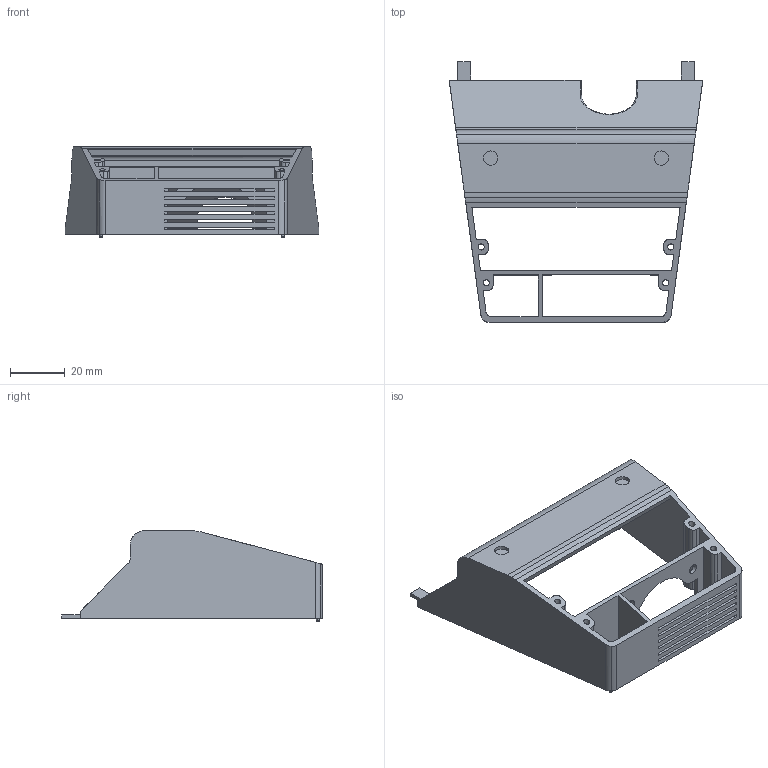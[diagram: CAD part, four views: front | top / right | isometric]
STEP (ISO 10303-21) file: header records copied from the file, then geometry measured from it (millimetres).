
FILE_DESCRIPTION(('STEP AP214'),'1');
FILE_NAME('02-Upper Front Cover v19.stp','2020-04-02T22:04:38',(' '),(' '),'Spatial InterOp 3D',' ',' ');
FILE_SCHEMA(('AUTOMOTIVE_DESIGN { 1 0 10303 214 1 1 1 1 }'));
Length unit declared in the file: metre
Products named in the file (1): Corps
Bounding box: 92.7 x 95.28 x 33 mm (x, y, z)
Volume: 26579.9 mm3; surface area: 27609.3 mm2
Topology: 1 solids, 1 shells, 215 faces, 606 edges, 398 vertices
Faces by surface type: cylinder 105, plane 95, torus 9, sphere 4, bspline 2
Entity records: 7430 total; most frequent: CARTESIAN_POINT 1558, DIRECTION 1271, ORIENTED_EDGE 1212, EDGE_CURVE 606, AXIS2_PLACEMENT_3D 451, VERTEX_POINT 398, LINE 369, VECTOR 369
